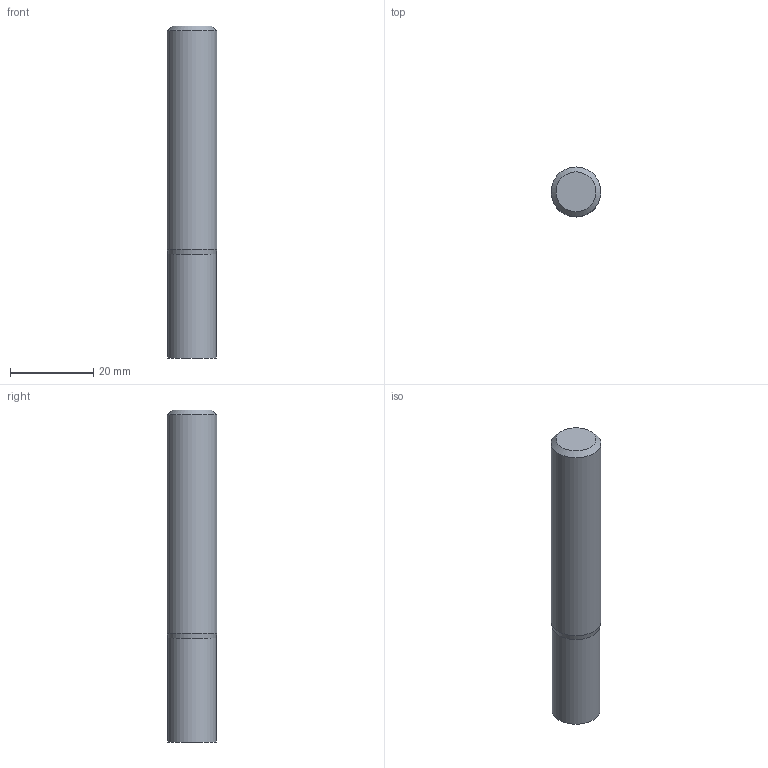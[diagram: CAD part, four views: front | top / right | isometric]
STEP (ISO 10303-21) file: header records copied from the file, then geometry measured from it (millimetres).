
FILE_DESCRIPTION((''),'2;1');
FILE_NAME('C:\Users\nsx150\AppData\Local\Temp\Mastercam 2021\98T1Q6BTT1\TEMP.step','2021-10-21T14:50:28',(''),(''),'STEP Write','Mastercam 2021 ... CNC Software, Inc.','');
FILE_SCHEMA(('AUTOMOTIVE_DESIGN'));
Length unit declared in the file: millimetre
Products named in the file (1): None
Bounding box: 12 x 12 x 80 mm (x, y, z)
Volume: 8832.4 mm3; surface area: 3386.1 mm2
Topology: 2 solids, 2 shells, 8 faces, 10 edges, 6 vertices
Faces by surface type: plane 4, cylinder 2, cone 2
Full cylindrical faces by diameter (mm): 11.6 x1, 12 x1
Entity records: 190 total; most frequent: DIRECTION 32, CARTESIAN_POINT 22, AXIS2_PLACEMENT_3D 16, ORIENTED_EDGE 12, EDGE_LOOP 12, STYLED_ITEM 11, ADVANCED_FACE 8, VERTEX_POINT 6
